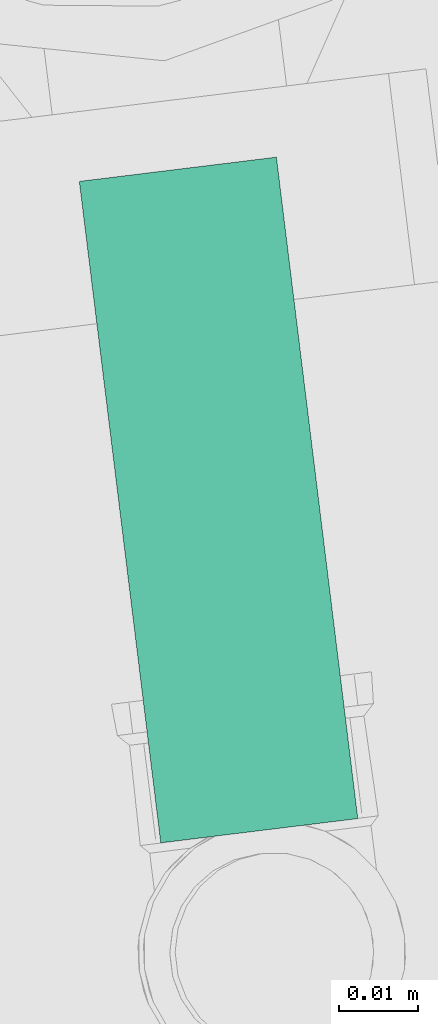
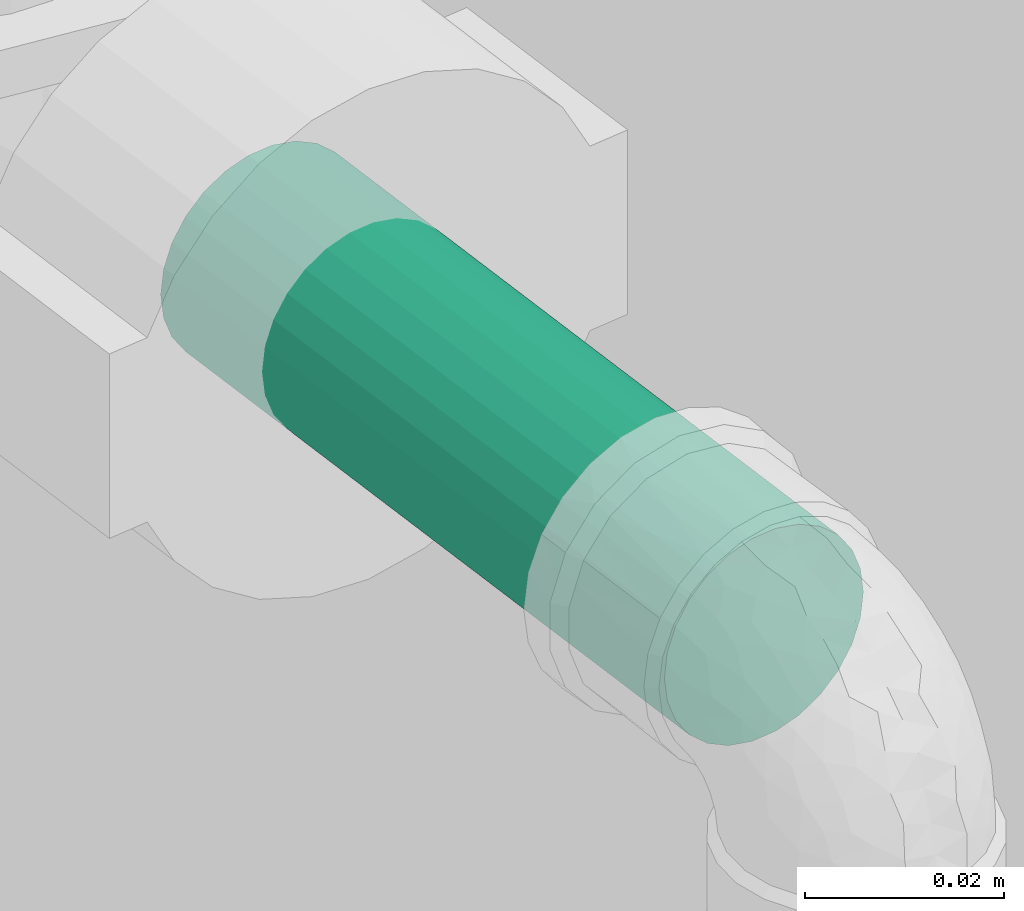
# One storey, part 80 of 97: 1 flow segment.
"""IFC2X3 building model written with IfcOpenShell, lengths in centimetres."""

from ifc_helpers import new_model, entity, si_unit, converted_unit, derived_unit, direction, frame, frame_2d, origin, place, context, subcontext, project, spatial, circle, extrude, type_object, element, save


model = new_model("IFC2X3")

# Units and contexts
model_context = context("Model", 3, precision=0.001, world=origin(), true_north=direction((6.12303176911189e-17, 1.0)))
body_context = subcontext(model_context, "Body", "Model", "MODEL_VIEW")
ifc_project = project(units=[si_unit("LENGTHUNIT", "METRE", prefix="CENTI"), si_unit("AREAUNIT", "SQUARE_METRE"), si_unit("VOLUMEUNIT", "CUBIC_METRE"), converted_unit("PLANEANGLEUNIT", "DEGREE", entity("IfcRatioMeasure", 0.0174532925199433), si_unit("PLANEANGLEUNIT", "RADIAN"), dimensions=[0, 0, 0, 0, 0, 0, 0]), si_unit("MASSUNIT", "GRAM", prefix="KILO"), derived_unit("MASSDENSITYUNIT", [(si_unit("MASSUNIT", "GRAM", prefix="KILO"), 1), (si_unit("LENGTHUNIT", "METRE"), -3)]), derived_unit("MOMENTOFINERTIAUNIT", [(si_unit("LENGTHUNIT", "METRE"), 4)]), si_unit("TIMEUNIT", "SECOND"), si_unit("FREQUENCYUNIT", "HERTZ"), si_unit("THERMODYNAMICTEMPERATUREUNIT", "DEGREE_CELSIUS"), derived_unit("THERMALTRANSMITTANCEUNIT", [(si_unit("MASSUNIT", "GRAM", prefix="KILO"), 1), (si_unit("THERMODYNAMICTEMPERATUREUNIT", "KELVIN"), -1), (si_unit("TIMEUNIT", "SECOND"), -3)]), derived_unit("VOLUMETRICFLOWRATEUNIT", [(si_unit("LENGTHUNIT", "METRE"), 3), (si_unit("TIMEUNIT", "SECOND"), -1)]), si_unit("ELECTRICCURRENTUNIT", "AMPERE"), si_unit("ELECTRICVOLTAGEUNIT", "VOLT"), si_unit("POWERUNIT", "WATT"), si_unit("FORCEUNIT", "NEWTON", prefix="KILO"), si_unit("ILLUMINANCEUNIT", "LUX"), si_unit("LUMINOUSFLUXUNIT", "LUMEN"), si_unit("LUMINOUSINTENSITYUNIT", "CANDELA"), derived_unit("USERDEFINED", [(si_unit("MASSUNIT", "GRAM", prefix="KILO"), -1), (si_unit("LENGTHUNIT", "METRE"), -2), (si_unit("TIMEUNIT", "SECOND"), 3), (si_unit("LUMINOUSFLUXUNIT", "LUMEN"), 1)]), derived_unit("LINEARVELOCITYUNIT", [(si_unit("LENGTHUNIT", "METRE"), 1), (si_unit("TIMEUNIT", "SECOND"), -1)]), si_unit("PRESSUREUNIT", "PASCAL"), derived_unit("USERDEFINED", [(si_unit("LENGTHUNIT", "METRE"), -2), (si_unit("MASSUNIT", "GRAM", prefix="KILO"), 1), (si_unit("TIMEUNIT", "SECOND"), -2)]), derived_unit("LINEARFORCEUNIT", [(si_unit("MASSUNIT", "GRAM", prefix="KILO"), 1), (si_unit("LENGTHUNIT", "METRE"), 1), (si_unit("TIMEUNIT", "SECOND"), -2), (si_unit("LENGTHUNIT", "METRE"), -1)]), derived_unit("PLANARFORCEUNIT", [(si_unit("MASSUNIT", "GRAM", prefix="KILO"), 1), (si_unit("LENGTHUNIT", "METRE"), 1), (si_unit("TIMEUNIT", "SECOND"), -2), (si_unit("LENGTHUNIT", "METRE"), -2)])], contexts=[model_context])

# Site, building, storey
site_placement = place(None, origin())
site = spatial("IfcSite", under=ifc_project, at=site_placement, Name="Default", CompositionType="ELEMENT")
building_placement = place(site_placement, origin())
building = spatial("IfcBuilding", under=site, at=building_placement, Name="HIDROSSANITÁRIO", CompositionType="ELEMENT")
storey_placement = place(building_placement, frame((0.0, 0.0, -260.0)))
storey = spatial("IfcBuildingStorey", under=building, at=storey_placement, Name="TÉRREO-HID", CompositionType="ELEMENT", Elevation=-260.0)

# Flow segment
pipe_segment_type = type_object("IfcPipeSegmentType", Name="Tipos de tubos:Tubo Marrom - Água Fria - Soldável", PredefinedType="NOTDEFINED")
flow_segment_placement = place(storey_placement, origin())
element("IfcFlowSegment", 1, at=flow_segment_placement, inside=storey, type_object=pipe_segment_type, Name="Tipos de tubos:Tubo Marrom - Água Fria - Soldável", ObjectType="Tipos de tubos:Tubo Marrom - Água Fria - Soldável", context=body_context, shape_type="SweptSolid", body=[
    extrude(circle(Radius=1.25, at=frame_2d((0.0, 2.70716782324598e-14), x_axis=(1.0, 0.0))), frame((-2442.29569722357, 3257.87837780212, 86.0), z_axis=(-0.122152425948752, 0.992511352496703, 0.0), x_axis=(-0.992511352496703, -0.122152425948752, 0.0)), (0.0, 0.0, 1.0), 8.39059457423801),
])

save(model, "model.ifc")
